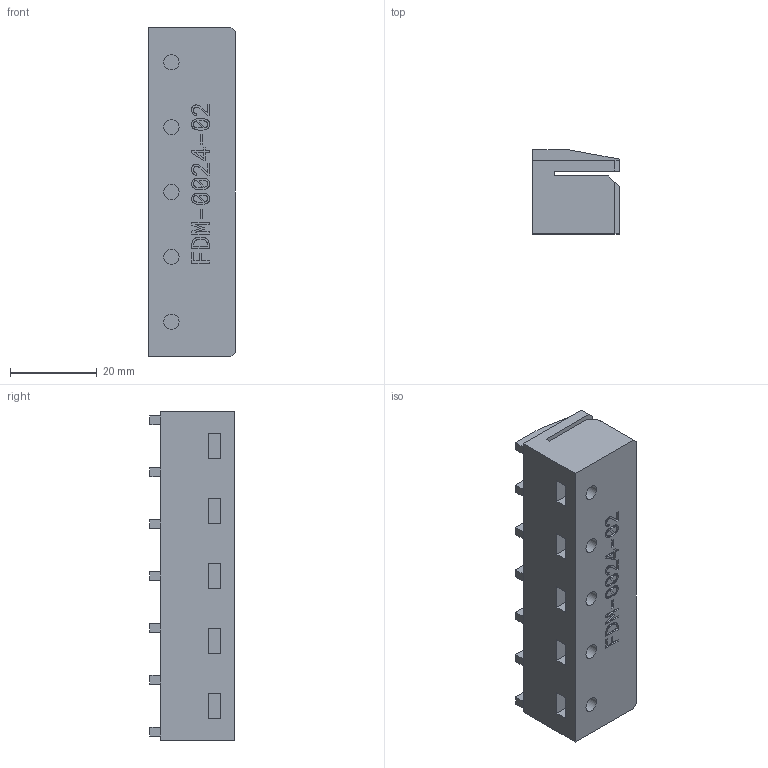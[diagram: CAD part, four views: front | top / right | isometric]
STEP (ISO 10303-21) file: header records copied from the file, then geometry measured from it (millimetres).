
FILE_DESCRIPTION(/* description */ (''),/* implementation_level */ '2;1');
FILE_NAME(/* name */ 'C:/Users/Ben/Downloads/3d-prints/printing/missing/LumenPNPClipFeederPCBHolder/NozzleHolder/assembly-FDM-0024_nozzle-holder_Body_001 v2.step',/* time_stamp */ '2022-03-30T11:48:41-04:00',/* author */ (''),/* organization */ (''),/* preprocessor_version */ 'ST-DEVELOPER v18.1',/* originating_system */ 'Autodesk Translation Framework v10.10.0.1391',/* authorisation */ '');
FILE_SCHEMA (('AUTOMOTIVE_DESIGN { 1 0 10303 214 3 1 1 }'));
Length unit declared in the file: millimetre
Products named in the file (1): assembly-FDM-0024_nozzle-holder_Body_001
Bounding box: 20 x 19.5 x 76 mm (x, y, z)
Volume: 19042.4 mm3; surface area: 10780.2 mm2
Topology: 1 solids, 1 shells, 871 faces, 2401 edges, 1586 vertices
Faces by surface type: plane 440, bspline 408, cylinder 23
Full cylindrical faces by diameter (mm): 3.5 x10
Entity records: 27985 total; most frequent: CARTESIAN_POINT 8531, ORIENTED_EDGE 4802, DIRECTION 2559, EDGE_CURVE 2401, VERTEX_POINT 1586, LINE 1539, VECTOR 1539, EDGE_LOOP 935
